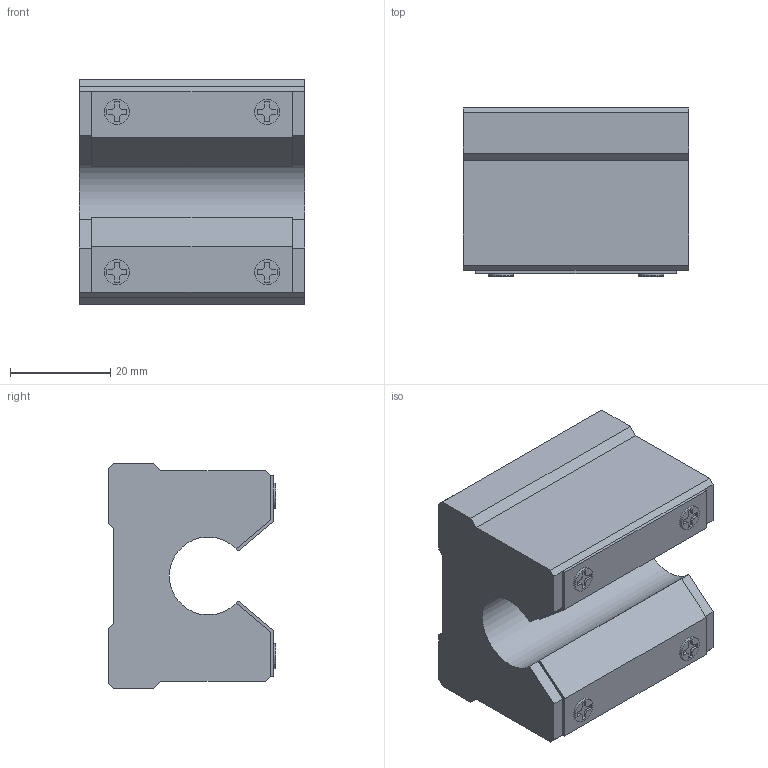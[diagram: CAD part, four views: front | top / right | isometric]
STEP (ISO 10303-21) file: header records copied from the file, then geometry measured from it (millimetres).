
FILE_DESCRIPTION( ( 'STEP AP203' ), '1' );
FILE_NAME( 'e:/temp/worker_83/temp/exporttempdir_6772_188_g8Icn/format_0/SBR16UU.stp', '2021-06-07T03:09:36', ( 'License CC BY-ND 4.0' ), ( 'CADENAS' ), ' ', 'PARTsolutions', ' ' );
FILE_SCHEMA( ( 'CONFIG_CONTROL_DESIGN' ) );
Length unit declared in the file: millimetre
Products named in the file (1): _SBR16UU
Bounding box: 45 x 33.5 x 45 mm (x, y, z)
Volume: 48874.9 mm3; surface area: 11289.2 mm2
Topology: 1 solids, 1 shells, 124 faces, 322 edges, 212 vertices
Faces by surface type: plane 95, cylinder 25, cone 4
Full cylindrical faces by diameter (mm): 4.134 x4, 5 x4
Entity records: 3744 total; most frequent: CARTESIAN_POINT 647, ORIENTED_EDGE 620, DIRECTION 618, EDGE_CURVE 310, LINE 252, VECTOR 252, VERTEX_POINT 212, AXIS2_PLACEMENT_3D 183
